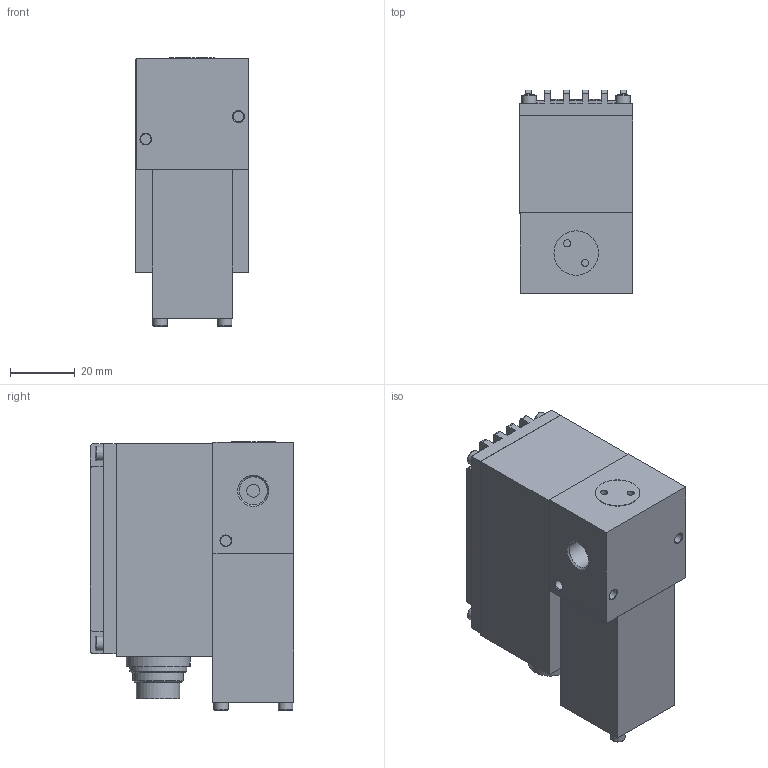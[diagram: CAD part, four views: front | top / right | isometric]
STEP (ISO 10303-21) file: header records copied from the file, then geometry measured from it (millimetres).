
FILE_DESCRIPTION((''),'2;1');
FILE_NAME('F:\AirCom-Produktdokumentation\Proportionaldruckregler\PRA\CAD\CAD AirCom\3D\B-PRA00-0600.stp','2008-11-13T11:17:56',('Frank Schroers'),(''),'Autodesk Inventor 2008','Autodesk Inventor 2008','');
FILE_SCHEMA(('AUTOMOTIVE_DESIGN { 1 0 10303 214 1 1 1 1 }'));
Length unit declared in the file: millimetre
Products named in the file (9): B-PRA00-0600; B-Platinengehaeuse; B-Stecker; B-Steckermutter; B-Ventilgehaeuse; B-Ventilgehaeusedeckel; B-Magnet; DIN 912 - ersetzt durch DIN EN ISO 4762 M2,5 x 25; DIN 912 - ersetzt durch DIN EN ISO 4762 M2,5 x 8
Assembly tree (12 placements, depth 2):
  B-PRA00-0600
    B-Platinengehaeuse
    B-Stecker
    B-Steckermutter
    B-Ventilgehaeuse
    B-Ventilgehaeusedeckel
    B-Magnet
    DIN 912 - ersetzt durch DIN EN ISO 4762 M2,5 x 25  x2
    DIN 912 - ersetzt durch DIN EN ISO 4762 M2,5 x 8  x4
Bounding box: 35.2 x 63 x 83.2 mm (x, y, z)
Volume: 84923.2 mm3; surface area: 41310.7 mm2
Topology: 12 solids, 12 shells, 385 faces, 881 edges, 569 vertices
Faces by surface type: plane 256, cylinder 88, cone 27, bspline 8, torus 6
Full cylindrical faces by diameter (mm): 0.913 x1, 1.5 x7, 2.123 x1, 2.2 x2, 2.44 x4, 2.48 x3, 2.5 x6, 3.2 x2, 3.25 x2, 3.27 x1, 3.5 x3, 4 x7, 4.5 x6, 8.7 x3, 13.5 x1, 13.8 x1, 15.1 x1, 15.68 x1, 16.95 x1, 17.7 x1, 19 x1, 19.9 x1
Entity records: 9222 total; most frequent: CARTESIAN_POINT 1653, DIRECTION 1539, ORIENTED_EDGE 1352, EDGE_CURVE 676, AXIS2_PLACEMENT_3D 533, VERTEX_POINT 485, VECTOR 473, LINE 473
